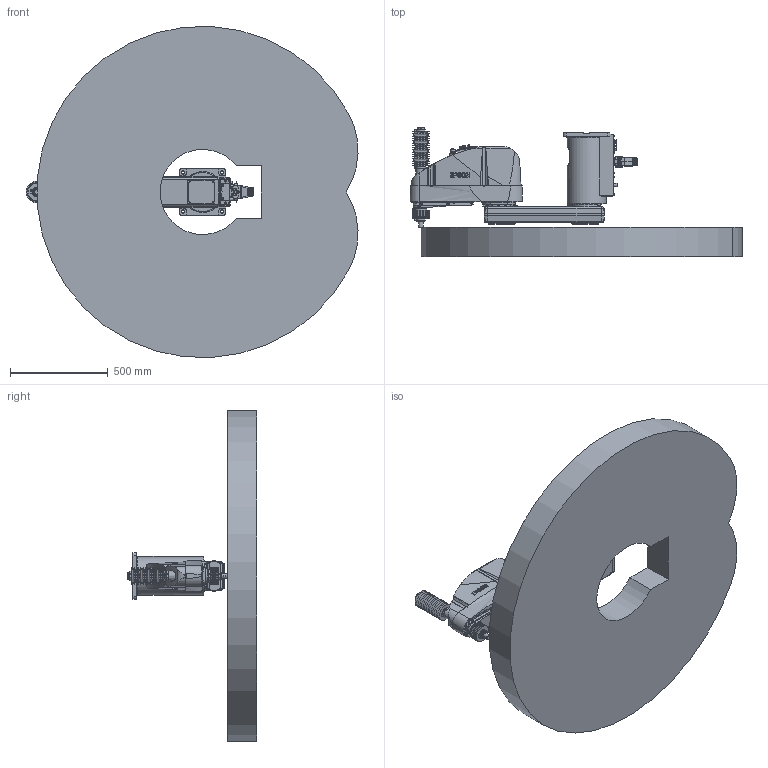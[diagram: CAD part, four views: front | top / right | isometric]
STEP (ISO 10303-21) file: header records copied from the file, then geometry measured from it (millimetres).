
FILE_DESCRIPTION( ( 'STEP AP214' ), '1' );
FILE_NAME( 'C:/Users/9607552/Desktop/GX10-B851CR_straight.stp', '2023-08-01T09:19:03', ( '' ), ( '' ), ' ', 'PARTsolutions', ' ' );
FILE_SCHEMA( ( 'AUTOMOTIVE_DESIGN { 1 0 10303 214 1 1 1 1 }' ) );
Length unit declared in the file: millimetre
Products named in the file (7): GX10-B851CRS-W; _Base cr; _Straight-B; _J1 Arm GX10-450 r/w; _J2 Arm GX10-c; _J3 Arm GX10-c (1); _GX10_20B-35_1
Assembly tree (6 placements, depth 2):
  GX10-B851CRS-W
    _Base cr
    _Straight-B
    _J1 Arm GX10-450 r/w
    _J2 Arm GX10-c
    _J3 Arm GX10-c (1)
    _GX10_20B-35_1
Bounding box: 1702.55 x 665 x 1697.41 mm (x, y, z)
Volume: 351193405.5 mm3; surface area: 6884565.7 mm2
Topology: 6 solids, 6 shells, 2508 faces, 6175 edges, 4009 vertices
Faces by surface type: plane 1315, cylinder 735, cone 350, torus 70, bspline 37, sphere 1
Full cylindrical faces by diameter (mm): 1.18 x55, 2.5 x2, 3 x32, 3.242 x10, 3.3 x9, 4 x2, 4.2 x2, 4.8 x4, 5.1 x4, 5.34 x4, 5.5 x12, 6 x3, 6.2 x2, 6.647 x2, 7 x27, 7.5 x1, 8 x4, 8.5 x2, 9 x4, 10 x32, 10.5 x4, 11 x14, 12 x7, 12.25 x1, 13 x2, 14 x8, 14.25 x1, 16 x7, 18 x2, 20.4 x1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
Entity records: 94820 total; most frequent: CARTESIAN_POINT 17898, DIRECTION 11762, ORIENTED_EDGE 10876, EDGE_CURVE 5438, AXIS2_PLACEMENT_3D 4470, VERTEX_POINT 3900, EDGE_LOOP 3497, FACE_OUTER_BOUND 2859
